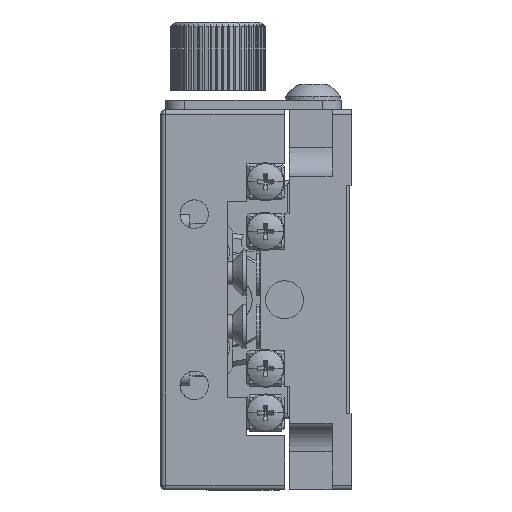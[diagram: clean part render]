
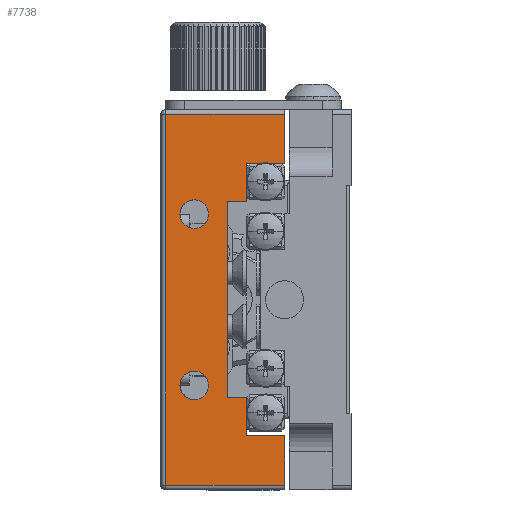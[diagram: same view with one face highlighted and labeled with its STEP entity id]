
A CAD part, left-side view. The second image highlights one B-rep face of the part: STEP entity #7738.
In plain terms, the highlighted planar face has unit normal (-1, 0, 0).
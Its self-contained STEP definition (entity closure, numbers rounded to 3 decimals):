
#151 = CARTESIAN_POINT ( 'NONE',  ( 241.321, 19.5, 39.5 ) ) ;
#261 = AXIS2_PLACEMENT_3D ( 'NONE', #2746, #13372, #24000 ) ;
#536 = LINE ( 'NONE', #11165, #22912 ) ;
#887 = CARTESIAN_POINT ( 'NONE',  ( 241.321, 11., 30.3 ) ) ;
#921 = ORIENTED_EDGE ( 'NONE', *, *, #12112, .T. ) ;
#996 = AXIS2_PLACEMENT_3D ( 'NONE', #17336, #27971, #4072 ) ;
#1013 = LINE ( 'NONE', #11639, #20768 ) ;
#1314 = FACE_BOUND ( 'NONE', #30606, .T. ) ;
#2010 = DIRECTION ( 'NONE',  ( -1., 0., 0. ) ) ;
#2245 = DIRECTION ( 'NONE',  ( 0., -1., 0. ) ) ;
#2607 = ORIENTED_EDGE ( 'NONE', *, *, #31304, .F. ) ;
#2628 = VECTOR ( 'NONE', #16503, 1000. ) ;
#2746 = CARTESIAN_POINT ( 'NONE',  ( 241.321, 16., 29. ) ) ;
#3775 = LINE ( 'NONE', #14410, #14230 ) ;
#3901 = DIRECTION ( 'NONE',  ( 0., 1., 0. ) ) ;
#4072 = DIRECTION ( 'NONE',  ( 0., 0., -1. ) ) ;
#4871 = VECTOR ( 'NONE', #2245, 1000. ) ;
#4908 = ORIENTED_EDGE ( 'NONE', *, *, #22793, .F. ) ;
#5069 = EDGE_CURVE ( 'NONE', #22402, #33584, #29762, .T. ) ;
#5106 = ORIENTED_EDGE ( 'NONE', *, *, #5170, .F. ) ;
#5170 = EDGE_CURVE ( 'NONE', #34016, #31228, #3775, .T. ) ;
#5179 = DIRECTION ( 'NONE',  ( -1., 0., 0. ) ) ;
#5842 = CARTESIAN_POINT ( 'NONE',  ( 241.321, 10.5, 30.3 ) ) ;
#5867 = CARTESIAN_POINT ( 'NONE',  ( 241.321, 6.5, 40. ) ) ;
#6153 = EDGE_CURVE ( 'NONE', #31228, #14660, #15481, .T. ) ;
#6429 = DIRECTION ( 'NONE',  ( 0., -1., 0. ) ) ;
#6681 = PLANE ( 'NONE',  #996 ) ;
#6723 = ORIENTED_EDGE ( 'NONE', *, *, #24640, .T. ) ;
#6975 = LINE ( 'NONE', #17628, #17226 ) ;
#7200 = CARTESIAN_POINT ( 'NONE',  ( 241.321, 19.5, 0.5 ) ) ;
#7550 = ORIENTED_EDGE ( 'NONE', *, *, #33342, .T. ) ;
#7738 = ADVANCED_FACE ( 'NONE', ( #1314, #19968, #30602 ), #6681, .F. ) ;
#8156 = DIRECTION ( 'NONE',  ( 0., 0., 1. ) ) ;
#8169 = EDGE_LOOP ( 'NONE', ( #11029, #8642 ) ) ;
#8642 = ORIENTED_EDGE ( 'NONE', *, *, #12116, .F. ) ;
#9288 = CIRCLE ( 'NONE', #20008, 1.5 ) ;
#9425 = VERTEX_POINT ( 'NONE', #27977 ) ;
#9476 = VERTEX_POINT ( 'NONE', #33571 ) ;
#9997 = CARTESIAN_POINT ( 'NONE',  ( 241.321, 16., 27.5 ) ) ;
#10764 = DIRECTION ( 'NONE',  ( 0., 1., 0. ) ) ;
#10785 = CARTESIAN_POINT ( 'NONE',  ( 241.321, 6.5, 34.3 ) ) ;
#11029 = ORIENTED_EDGE ( 'NONE', *, *, #33658, .F. ) ;
#11165 = CARTESIAN_POINT ( 'NONE',  ( 241.321, 12.5, 30.3 ) ) ;
#11525 = DIRECTION ( 'NONE',  ( 0., 1., 0. ) ) ;
#11639 = CARTESIAN_POINT ( 'NONE',  ( 241.321, 6.5, 40. ) ) ;
#12112 = EDGE_CURVE ( 'NONE', #33584, #33677, #24015, .T. ) ;
#12116 = EDGE_CURVE ( 'NONE', #25883, #21190, #9288, .T. ) ;
#12288 = ORIENTED_EDGE ( 'NONE', *, *, #30962, .T. ) ;
#12645 = DIRECTION ( 'NONE',  ( 0., 0., 1. ) ) ;
#12672 = CARTESIAN_POINT ( 'NONE',  ( 241.321, 16., 9.5 ) ) ;
#12710 = CARTESIAN_POINT ( 'NONE',  ( 241.321, 6.5, 39.5 ) ) ;
#13049 = VERTEX_POINT ( 'NONE', #30053 ) ;
#13372 = DIRECTION ( 'NONE',  ( -1., 0., 0. ) ) ;
#13444 = EDGE_CURVE ( 'NONE', #19941, #21252, #24760, .T. ) ;
#13534 = CARTESIAN_POINT ( 'NONE',  ( 241.321, 19., 0.5 ) ) ;
#13673 = CARTESIAN_POINT ( 'NONE',  ( 241.321, 6.5, 5.7 ) ) ;
#13759 = VECTOR ( 'NONE', #10764, 1000. ) ;
#14230 = VECTOR ( 'NONE', #25048, 1000. ) ;
#14388 = CARTESIAN_POINT ( 'NONE',  ( 241.321, 12.5, 9.7 ) ) ;
#14410 = CARTESIAN_POINT ( 'NONE',  ( 241.321, 10.5, 5.7 ) ) ;
#14660 = VERTEX_POINT ( 'NONE', #13673 ) ;
#14907 = AXIS2_PLACEMENT_3D ( 'NONE', #29085, #5179, #15813 ) ;
#15273 = CIRCLE ( 'NONE', #261, 1.5 ) ;
#15481 = LINE ( 'NONE', #26135, #4871 ) ;
#15631 = ORIENTED_EDGE ( 'NONE', *, *, #6153, .F. ) ;
#15813 = DIRECTION ( 'NONE',  ( 0., 0., 1. ) ) ;
#16479 = DIRECTION ( 'NONE',  ( 0., 0., -1. ) ) ;
#16503 = DIRECTION ( 'NONE',  ( 0., 0., 1. ) ) ;
#17160 = LINE ( 'NONE', #27797, #25319 ) ;
#17226 = VECTOR ( 'NONE', #28272, 1000. ) ;
#17336 = CARTESIAN_POINT ( 'NONE',  ( 241.321, 19.5, 40. ) ) ;
#17628 = CARTESIAN_POINT ( 'NONE',  ( 241.321, 19., 0. ) ) ;
#17835 = DIRECTION ( 'NONE',  ( 0., -1., 0. ) ) ;
#18519 = VERTEX_POINT ( 'NONE', #9997 ) ;
#18585 = VECTOR ( 'NONE', #6429, 1000. ) ;
#18744 = VECTOR ( 'NONE', #11525, 1000. ) ;
#19281 = CARTESIAN_POINT ( 'NONE',  ( 241.321, 16., 12.5 ) ) ;
#19408 = CARTESIAN_POINT ( 'NONE',  ( 241.321, 10.5, 30.3 ) ) ;
#19629 = CARTESIAN_POINT ( 'NONE',  ( 241.321, 12.5, 30.3 ) ) ;
#19703 = LINE ( 'NONE', #30346, #18585 ) ;
#19941 = VERTEX_POINT ( 'NONE', #19408 ) ;
#19968 = FACE_BOUND ( 'NONE', #8169, .T. ) ;
#20008 = AXIS2_PLACEMENT_3D ( 'NONE', #21424, #32060, #8156 ) ;
#20768 = VECTOR ( 'NONE', #22288, 1000. ) ;
#21137 = VERTEX_POINT ( 'NONE', #13534 ) ;
#21190 = VERTEX_POINT ( 'NONE', #19281 ) ;
#21252 = VERTEX_POINT ( 'NONE', #19629 ) ;
#21424 = CARTESIAN_POINT ( 'NONE',  ( 241.321, 16., 11. ) ) ;
#21819 = DIRECTION ( 'NONE',  ( 0., 0., 1. ) ) ;
#21925 = EDGE_CURVE ( 'NONE', #9476, #18519, #25627, .T. ) ;
#22288 = DIRECTION ( 'NONE',  ( 0., 0., 1. ) ) ;
#22402 = VERTEX_POINT ( 'NONE', #10785 ) ;
#22772 = ORIENTED_EDGE ( 'NONE', *, *, #13444, .F. ) ;
#22793 = EDGE_CURVE ( 'NONE', #18519, #9476, #15273, .T. ) ;
#22912 = VECTOR ( 'NONE', #21819, 1000. ) ;
#23102 = VECTOR ( 'NONE', #17835, 1000. ) ;
#23970 = AXIS2_PLACEMENT_3D ( 'NONE', #25897, #2010, #12645 ) ;
#24000 = DIRECTION ( 'NONE',  ( 0., 0., 1. ) ) ;
#24015 = LINE ( 'NONE', #151, #13759 ) ;
#24026 = ORIENTED_EDGE ( 'NONE', *, *, #5069, .T. ) ;
#24518 = EDGE_CURVE ( 'NONE', #22402, #13049, #17160, .T. ) ;
#24583 = CARTESIAN_POINT ( 'NONE',  ( 241.321, 10.5, 5.7 ) ) ;
#24640 = EDGE_CURVE ( 'NONE', #21137, #9425, #31106, .T. ) ;
#24760 = LINE ( 'NONE', #887, #18744 ) ;
#25048 = DIRECTION ( 'NONE',  ( 0., 0., -1. ) ) ;
#25152 = ORIENTED_EDGE ( 'NONE', *, *, #24518, .F. ) ;
#25319 = VECTOR ( 'NONE', #3901, 1000. ) ;
#25593 = VECTOR ( 'NONE', #16479, 1000. ) ;
#25627 = CIRCLE ( 'NONE', #23970, 1.5 ) ;
#25883 = VERTEX_POINT ( 'NONE', #12672 ) ;
#25897 = CARTESIAN_POINT ( 'NONE',  ( 241.321, 16., 29. ) ) ;
#26135 = CARTESIAN_POINT ( 'NONE',  ( 241.321, 6.5, 5.7 ) ) ;
#27326 = EDGE_LOOP ( 'NONE', ( #7550, #22772, #27596, #25152, #24026, #921, #12288, #6723, #32826, #15631, #5106, #2607 ) ) ;
#27596 = ORIENTED_EDGE ( 'NONE', *, *, #34175, .F. ) ;
#27797 = CARTESIAN_POINT ( 'NONE',  ( 241.321, 10.5, 34.3 ) ) ;
#27971 = DIRECTION ( 'NONE',  ( 1., 0., 0. ) ) ;
#27977 = CARTESIAN_POINT ( 'NONE',  ( 241.321, 6.5, 0.5 ) ) ;
#28272 = DIRECTION ( 'NONE',  ( 0., 0., -1. ) ) ;
#28733 = ORIENTED_EDGE ( 'NONE', *, *, #21925, .F. ) ;
#29085 = CARTESIAN_POINT ( 'NONE',  ( 241.321, 16., 11. ) ) ;
#29735 = LINE ( 'NONE', #5842, #25593 ) ;
#29762 = LINE ( 'NONE', #5867, #2628 ) ;
#29969 = CIRCLE ( 'NONE', #14907, 1.5 ) ;
#30053 = CARTESIAN_POINT ( 'NONE',  ( 241.321, 10.5, 34.3 ) ) ;
#30346 = CARTESIAN_POINT ( 'NONE',  ( 241.321, 10.5, 9.7 ) ) ;
#30536 = EDGE_CURVE ( 'NONE', #9425, #14660, #1013, .T. ) ;
#30602 = FACE_OUTER_BOUND ( 'NONE', #27326, .T. ) ;
#30606 = EDGE_LOOP ( 'NONE', ( #28733, #4908 ) ) ;
#30962 = EDGE_CURVE ( 'NONE', #33677, #21137, #6975, .T. ) ;
#31106 = LINE ( 'NONE', #7200, #23102 ) ;
#31161 = CARTESIAN_POINT ( 'NONE',  ( 241.321, 10.5, 9.7 ) ) ;
#31228 = VERTEX_POINT ( 'NONE', #24583 ) ;
#31304 = EDGE_CURVE ( 'NONE', #32210, #34016, #19703, .T. ) ;
#31886 = CARTESIAN_POINT ( 'NONE',  ( 241.321, 19., 39.5 ) ) ;
#32060 = DIRECTION ( 'NONE',  ( -1., 0., 0. ) ) ;
#32210 = VERTEX_POINT ( 'NONE', #14388 ) ;
#32826 = ORIENTED_EDGE ( 'NONE', *, *, #30536, .T. ) ;
#33342 = EDGE_CURVE ( 'NONE', #32210, #21252, #536, .T. ) ;
#33571 = CARTESIAN_POINT ( 'NONE',  ( 241.321, 16., 30.5 ) ) ;
#33584 = VERTEX_POINT ( 'NONE', #12710 ) ;
#33658 = EDGE_CURVE ( 'NONE', #21190, #25883, #29969, .T. ) ;
#33677 = VERTEX_POINT ( 'NONE', #31886 ) ;
#34016 = VERTEX_POINT ( 'NONE', #31161 ) ;
#34175 = EDGE_CURVE ( 'NONE', #13049, #19941, #29735, .T. ) ;
